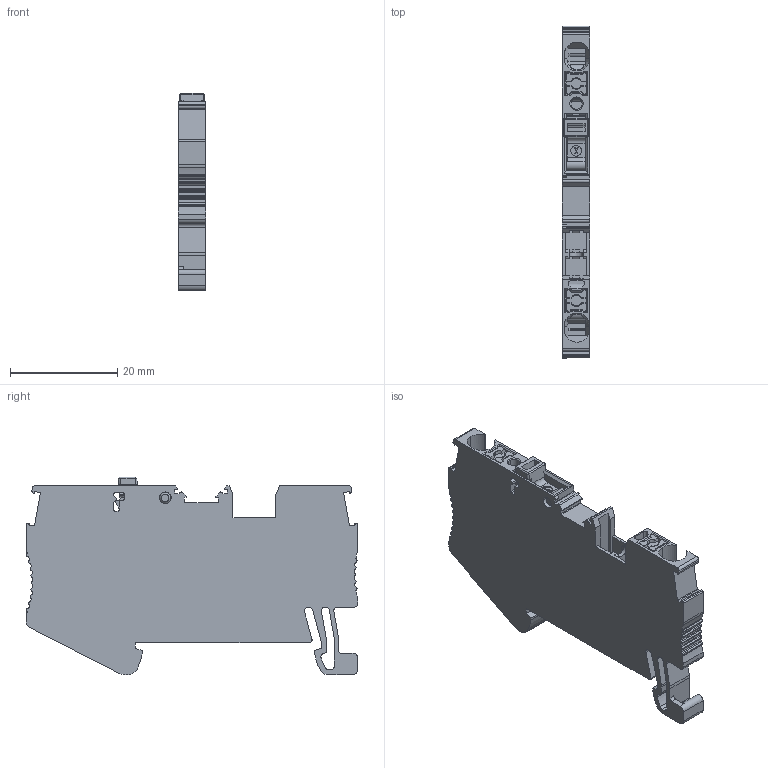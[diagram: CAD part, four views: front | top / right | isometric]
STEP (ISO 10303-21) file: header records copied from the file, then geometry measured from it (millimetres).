
FILE_DESCRIPTION((''),'2;1');
FILE_NAME('UPT-2-5KASSY','2024-03-29T15:56:15',('Administrator'),(''),'CREO PARAMETRIC BY PTC INC, 2018050','CREO PARAMETRIC BY PTC INC, 2018050','');
FILE_SCHEMA(('CONFIG_CONTROL_DESIGN'));
Length unit declared in the file: millimetre
Products named in the file (1): UPT-2-5KASSY
Bounding box: 5.2 x 61.9 x 36.85 mm (x, y, z)
Volume: 7954.8 mm3; surface area: 6564.6 mm2
Topology: 1 solids, 1 shells, 756 faces, 2180 edges, 1418 vertices
Faces by surface type: plane 379, cylinder 304, bspline 30, cone 22, torus 20, extrusion 1
Entity records: 27290 total; most frequent: CARTESIAN_POINT 7384, ORIENTED_EDGE 4336, DIRECTION 4014, EDGE_CURVE 2168, VERTEX_POINT 1414, VECTOR 1384, LINE 1383, AXIS2_PLACEMENT_3D 1315
